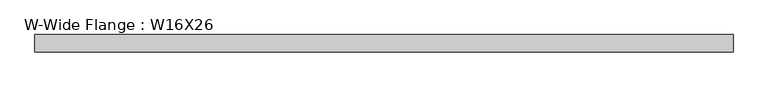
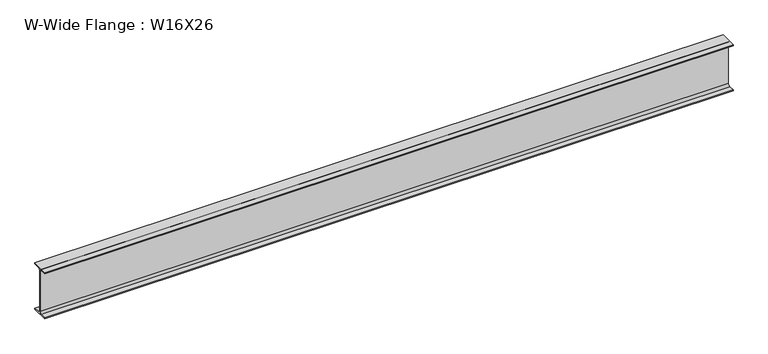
"""IFC4 building model written with IfcOpenShell, lengths in millimetres: beam geometry, W-Wide Flange : W16X26."""

from ifc_helpers import new_model, si_unit, point, frame, frame_2d, origin, place, context, project, spatial, polyline, circle_curve, trimmed, segment, composite_curve, outline, extrude, source, transform, mapped, element, save


def w_wide_flange_w16x26_9456430b(model_context):
    return source(origin(), model_context, "Body", "SweptSolid", [
        extrude(outline(composite_curve([segment(polyline([(69.85, -190.5496094), (69.85, -199.2808594), (-69.85, -199.2808594), (-69.85, -190.5496094), (-21.43125, -190.5496094)]), True, "CONTINUOUS"), segment(trimmed(circle_curve(frame_2d((-21.43125, -172.2933594)), 18.25625), [point((-21.43125, -190.5496094))], [point((-3.175, -172.2933594))], True, "CARTESIAN"), True, "CONTINUOUS"), segment(polyline([(-3.175, -172.2933594), (-3.175, 172.2933594)]), True, "CONTINUOUS"), segment(trimmed(circle_curve(frame_2d((-21.43125, 172.2933594)), 18.25625), [point((-3.175, 172.2933594))], [point((-21.43125, 190.5496094))], True, "CARTESIAN"), True, "CONTINUOUS"), segment(polyline([(-21.43125, 190.5496094), (-69.85, 190.5496094), (-69.85, 199.2808594), (69.85, 199.2808594), (69.85, 190.5496094), (21.43125, 190.5496094)]), True, "CONTINUOUS"), segment(trimmed(circle_curve(frame_2d((21.43125, 172.2933594)), 18.25625), [point((21.43125, 190.5496094))], [point((3.175, 172.2933594))], True, "CARTESIAN"), True, "CONTINUOUS"), segment(polyline([(3.175, 172.2933594), (3.175, -172.2933594)]), True, "CONTINUOUS"), segment(trimmed(circle_curve(frame_2d((21.43125, -172.2933594)), 18.25625), [point((3.175, -172.2933594))], [point((21.43125, -190.5496094))], True, "CARTESIAN"), True, "CONTINUOUS"), segment(polyline([(21.43125, -190.5496094), (69.85, -190.5496094)]), True, "CONTINUOUS")], self_intersect=False)), frame((-2806.7, 0.0, 0.0), z_axis=(1.0, 0.0, 0.0), x_axis=(0.0, 1.0, 0.0)), (0.0, 0.0, 1.0), 5613.4),
    ])


if __name__ == "__main__":
    model = new_model("IFC4")
    model_context = context("Model", 3, world=origin())
    ifc_project = project(units=[si_unit("LENGTHUNIT", "METRE", prefix="MILLI")], contexts=[model_context])
    site = spatial("IfcSite", under=ifc_project)
    building = spatial("IfcBuilding", under=site)
    placement = place(None, origin())
    w_wide_flange_w16x26_shape = w_wide_flange_w16x26_9456430b(model_context)
    element("IfcBeam", 1, ObjectType="W-Wide Flange : W16X26", at=placement, inside=building, context=model_context, shape_type="MappedRepresentation", body=[
        mapped(w_wide_flange_w16x26_shape, transform((0.0, 0.0, 0.0), x_axis=(1.0, 0.0, 0.0), y_axis=(0.0, 1.0, 0.0), z_axis=(0.0, 0.0, 1.0))),
    ])
    save(model, "model.ifc")
